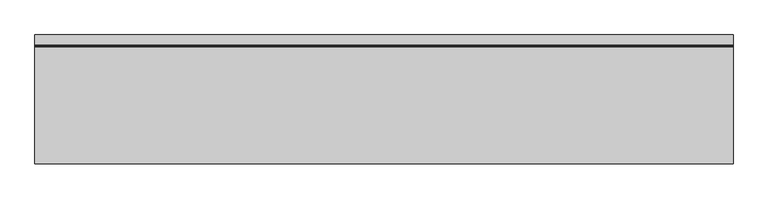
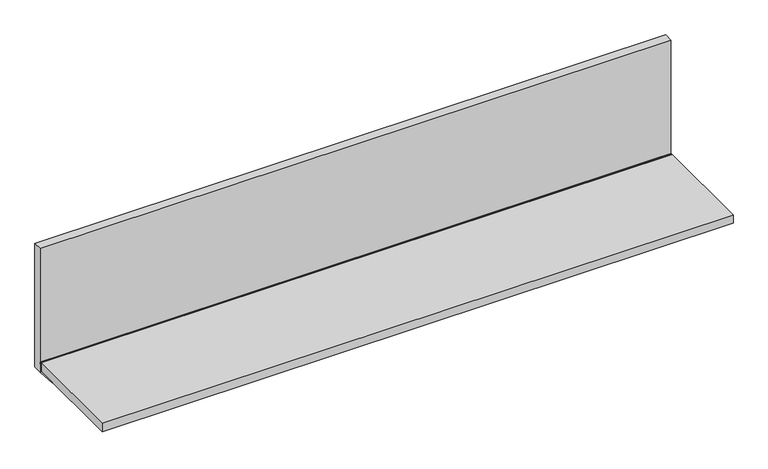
"""IFC4 building model written with IfcOpenShell, lengths in millimetres: furniture geometry, Geiger_GeigerOneCasegoods_OverheadStorageSingleShelfFullBackPanel : TFL 72Wx 13.375Dx 14.875H."""

from ifc_helpers import new_model, si_unit, point, frame, frame_2d, origin, origin_with_axes, place, context, project, spatial, polyline, circle_curve, trimmed, segment, composite_curve, outline, extrude, source, transform, mapped, element, save


def furniture_27fb7ee5(model_context):
    return source(origin(), model_context, "Body", "SweptSolid", [
        extrude(outline(polyline([(1828.8, -6.4077936), (1828.8, -32.4077936), (0.0, -32.4077936), (0.0, -6.4077936), (1828.8, -6.4077936)])), origin_with_axes(), (0.0, 0.0, 1.0), 379.0),
        extrude(outline(composite_curve([segment(polyline([(-33.9043936, 31.496), (-32.4057936, 31.496), (-32.4057936, 0.0)]), True, "CONTINUOUS"), segment(trimmed(circle_curve(frame_2d((-31.5258775, 473.2852461)), 473.2860641), [point((-32.4057936, 0.0))], [point((-93.0584748, 4.0161997))], False, "CARTESIAN"), True, "CONTINUOUS"), segment(trimmed(circle_curve(frame_2d((-92.9289669, 5.0038725)), 0.9961275), [point((-93.0584748, 4.0161997))], [point((-92.9289669, 6.0))], False, "CARTESIAN"), True, "CONTINUOUS"), segment(polyline([(-92.9289669, 6.0), (-38.9077936, 6.0), (-38.9077936, 31.496), (-37.4095936, 31.496), (-37.4095936, 26.4922), (-33.9043936, 26.4922), (-33.9043936, 31.496)]), True, "CONTINUOUS")], self_intersect=False)), frame((0.0, 0.0, 0.0), z_axis=(1.0, 0.0, 0.0), x_axis=(0.0, 1.0, 0.0)), (0.0, 0.0, 1.0), 1828.8),
        extrude(outline(polyline([(1828.8, -38.9077936), (1828.8, -344.4077936), (0.0, -344.4077936), (0.0, -38.9077936), (1828.8, -38.9077936)])), frame((0.0, 0.0, 6.0), z_axis=(0.0, 0.0, 1.0), x_axis=(1.0, 0.0, 0.0)), (0.0, 0.0, 1.0), 26.0),
    ])


if __name__ == "__main__":
    model = new_model("IFC4")
    model_context = context("Model", 3, world=origin())
    ifc_project = project(units=[si_unit("LENGTHUNIT", "METRE", prefix="MILLI")], contexts=[model_context])
    site = spatial("IfcSite", under=ifc_project)
    building = spatial("IfcBuilding", under=site)
    placement = place(None, origin())
    furniture_shape = furniture_27fb7ee5(model_context)
    element("IfcFurniture", 1, ObjectType="Geiger_GeigerOneCasegoods_OverheadStorageSingleShelfFullBackPanel : TFL 72Wx 13.375Dx 14.875H", at=placement, inside=building, context=model_context, shape_type="MappedRepresentation", body=[
        mapped(furniture_shape, transform((0.0, 0.0, 0.0), x_axis=(1.0, 0.0, 0.0), y_axis=(0.0, 1.0, 0.0), z_axis=(0.0, 0.0, 1.0))),
    ])
    save(model, "model.ifc")
